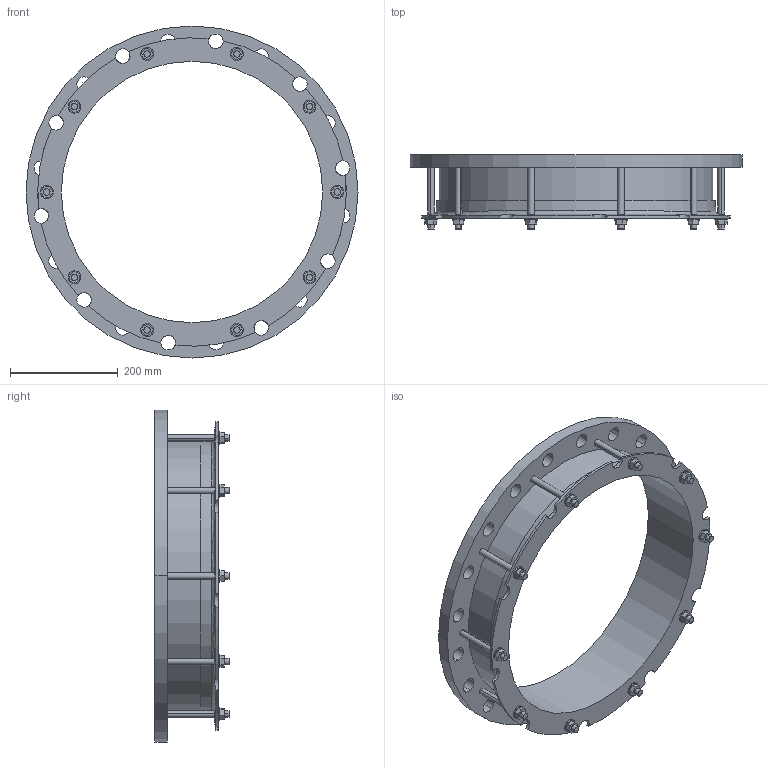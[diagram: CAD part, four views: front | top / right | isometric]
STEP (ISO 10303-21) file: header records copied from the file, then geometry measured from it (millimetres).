
FILE_DESCRIPTION((''),'2;1');
FILE_NAME('480X450PN10_10NOT','2019-01-16T',('mfairey'),('Glynwed Pipe Systems'),'CREO PARAMETRIC BY PTC INC, 2016130','CREO PARAMETRIC BY PTC INC, 2016130','');
FILE_SCHEMA(('CONFIG_CONTROL_DESIGN'));
Length unit declared in the file: millimetre
Products named in the file (1): 480X450PN10_10NOT
Bounding box: 615 x 137.45 x 615 mm (x, y, z)
Volume: 4696310.7 mm3; surface area: 753263.2 mm2
Topology: 1 solids, 1 shells, 226 faces, 604 edges, 402 vertices
Faces by surface type: cylinder 126, plane 94, cone 4, torus 2
Entity records: 8170 total; most frequent: CARTESIAN_POINT 2216, DIRECTION 1242, ORIENTED_EDGE 1208, EDGE_CURVE 604, AXIS2_PLACEMENT_3D 466, VERTEX_POINT 402, VECTOR 310, LINE 310
